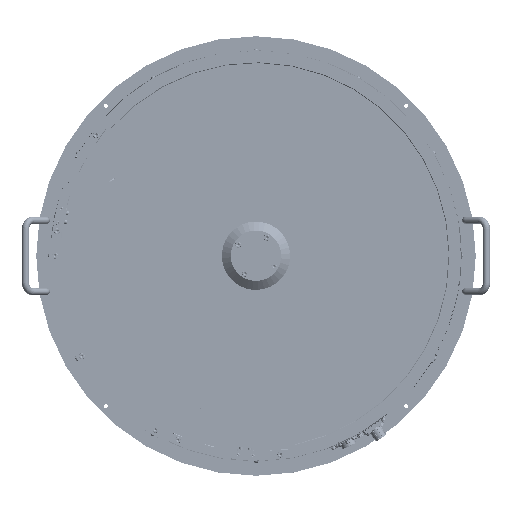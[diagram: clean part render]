
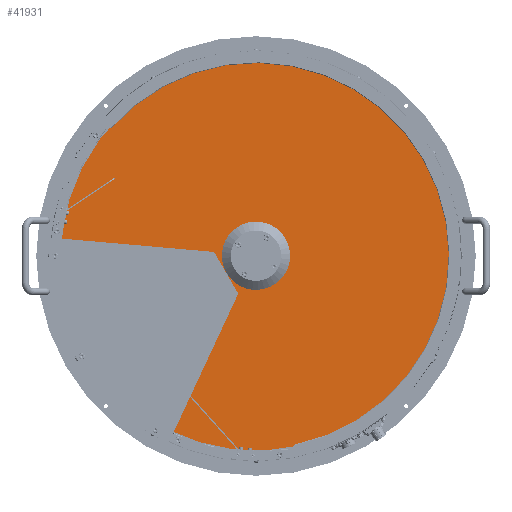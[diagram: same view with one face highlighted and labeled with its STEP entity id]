
A CAD part, top view. The second image highlights one B-rep face of the part: STEP entity #41931.
In plain terms, the highlighted planar face has unit normal (0, 0, 1) as drawn and (0, 0, -1) by its records, which use the part's own axes.
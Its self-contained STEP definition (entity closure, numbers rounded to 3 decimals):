
#3979 = EDGE_CURVE ( 'NONE', #50246, #212541, #233163, .T. ) ;
#14046 = ORIENTED_EDGE ( 'NONE', *, *, #220441, .F. ) ;
#15053 = CARTESIAN_POINT ( 'NONE',  ( 0., 0., 0. ) ) ;
#15521 = CARTESIAN_POINT ( 'NONE',  ( 0., 0., 0. ) ) ;
#30695 = CARTESIAN_POINT ( 'NONE',  ( 42.6, 0., 0. ) ) ;
#41931 = ADVANCED_FACE ( 'NONE', ( #111841, #60992 ), #290604, .F. ) ;
#50246 = VERTEX_POINT ( 'NONE', #255462 ) ;
#50632 = DIRECTION ( 'NONE',  ( 1., 0., 0. ) ) ;
#51436 = CARTESIAN_POINT ( 'NONE',  ( -328., 0., 0. ) ) ;
#55596 = DIRECTION ( 'NONE',  ( 1., 0., 0. ) ) ;
#60992 = FACE_BOUND ( 'NONE', #245887, .T. ) ;
#66073 = EDGE_CURVE ( 'NONE', #122692, #252153, #243307, .T. ) ;
#66281 = DIRECTION ( 'NONE',  ( 0., 0., 1. ) ) ;
#71065 = EDGE_LOOP ( 'NONE', ( #113409, #14046 ) ) ;
#87202 = DIRECTION ( 'NONE',  ( 1., 0., 0. ) ) ;
#91332 = AXIS2_PLACEMENT_3D ( 'NONE', #180104, #260656, #55596 ) ;
#93399 = CARTESIAN_POINT ( 'NONE',  ( 0., 0., 0. ) ) ;
#94997 = DIRECTION ( 'NONE',  ( 0., 0., 1. ) ) ;
#100189 = DIRECTION ( 'NONE',  ( 1., 0., 0. ) ) ;
#111841 = FACE_OUTER_BOUND ( 'NONE', #71065, .T. ) ;
#113409 = ORIENTED_EDGE ( 'NONE', *, *, #66073, .F. ) ;
#117516 = AXIS2_PLACEMENT_3D ( 'NONE', #15521, #66281, #210636 ) ;
#122692 = VERTEX_POINT ( 'NONE', #51436 ) ;
#127961 = DIRECTION ( 'NONE',  ( 0., 0., 1. ) ) ;
#134026 = CIRCLE ( 'NONE', #159915, 328. ) ;
#159915 = AXIS2_PLACEMENT_3D ( 'NONE', #93399, #94997, #50632 ) ;
#180104 = CARTESIAN_POINT ( 'NONE',  ( 0., 0., 0. ) ) ;
#182860 = ORIENTED_EDGE ( 'NONE', *, *, #202844, .T. ) ;
#190736 = CIRCLE ( 'NONE', #91332, 42.6 ) ;
#192550 = CARTESIAN_POINT ( 'NONE',  ( 328., 0., 0. ) ) ;
#196380 = AXIS2_PLACEMENT_3D ( 'NONE', #303594, #127961, #100189 ) ;
#202844 = EDGE_CURVE ( 'NONE', #212541, #50246, #190736, .T. ) ;
#207253 = ORIENTED_EDGE ( 'NONE', *, *, #3979, .T. ) ;
#210636 = DIRECTION ( 'NONE',  ( 1., 0., 0. ) ) ;
#212541 = VERTEX_POINT ( 'NONE', #30695 ) ;
#220441 = EDGE_CURVE ( 'NONE', #252153, #122692, #134026, .T. ) ;
#233163 = CIRCLE ( 'NONE', #196380, 42.6 ) ;
#243307 = CIRCLE ( 'NONE', #117516, 328. ) ;
#245887 = EDGE_LOOP ( 'NONE', ( #207253, #182860 ) ) ;
#252153 = VERTEX_POINT ( 'NONE', #192550 ) ;
#255462 = CARTESIAN_POINT ( 'NONE',  ( -42.6, 0., 0. ) ) ;
#260656 = DIRECTION ( 'NONE',  ( 0., 0., 1. ) ) ;
#290604 = PLANE ( 'NONE',  #299275 ) ;
#299275 = AXIS2_PLACEMENT_3D ( 'NONE', #15053, #312023, #87202 ) ;
#303594 = CARTESIAN_POINT ( 'NONE',  ( 0., 0., 0. ) ) ;
#312023 = DIRECTION ( 'NONE',  ( 0., 0., 1. ) ) ;
